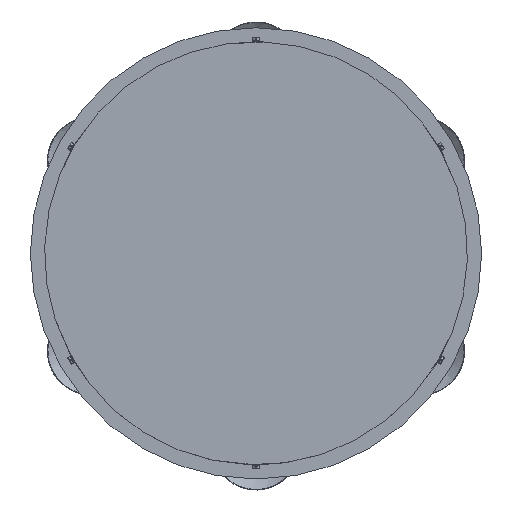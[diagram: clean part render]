
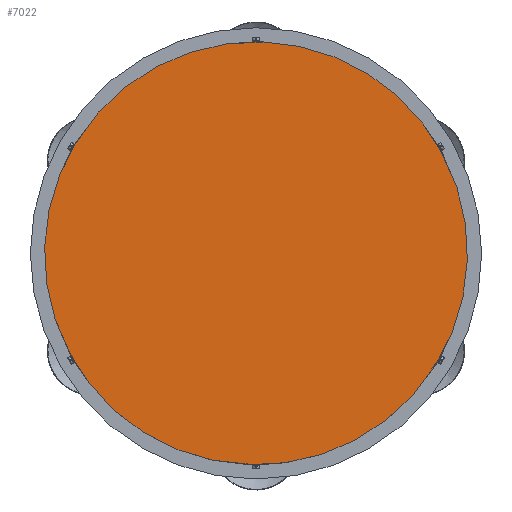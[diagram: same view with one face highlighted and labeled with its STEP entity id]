
A CAD part, top view. The second image highlights one B-rep face of the part: STEP entity #7022.
In plain terms, the highlighted planar face has unit normal (0, 0, 1).
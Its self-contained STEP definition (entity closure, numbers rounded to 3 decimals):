
#1375=FACE_OUTER_BOUND('',#1946,.T.);
#1946=EDGE_LOOP('',(#5637));
#2560=CIRCLE('',#7974,295.237);
#3154=VERTEX_POINT('',#14640);
#4006=EDGE_CURVE('',#3154,#3154,#2560,.T.);
#5637=ORIENTED_EDGE('',*,*,#4006,.T.);
#6171=PLANE('',#7975);
#7022=ADVANCED_FACE('',(#1375),#6171,.T.);
#7974=AXIS2_PLACEMENT_3D('',#14641,#10002,#10003);
#7975=AXIS2_PLACEMENT_3D('',#14678,#10005,#10006);
#10002=DIRECTION('center_axis',(0.,0.,
1.));
#10003=DIRECTION('ref_axis',(0.034,0.999,0.));
#10005=DIRECTION('center_axis',(0.,0.,
1.));
#10006=DIRECTION('ref_axis',(-1.,0.,0.));
#14640=CARTESIAN_POINT('',(10.,295.068,32.5));
#14641=CARTESIAN_POINT('Origin',(0.,0.,
32.5));
#14678=CARTESIAN_POINT('Origin',(-142.619,0.,
32.5));
